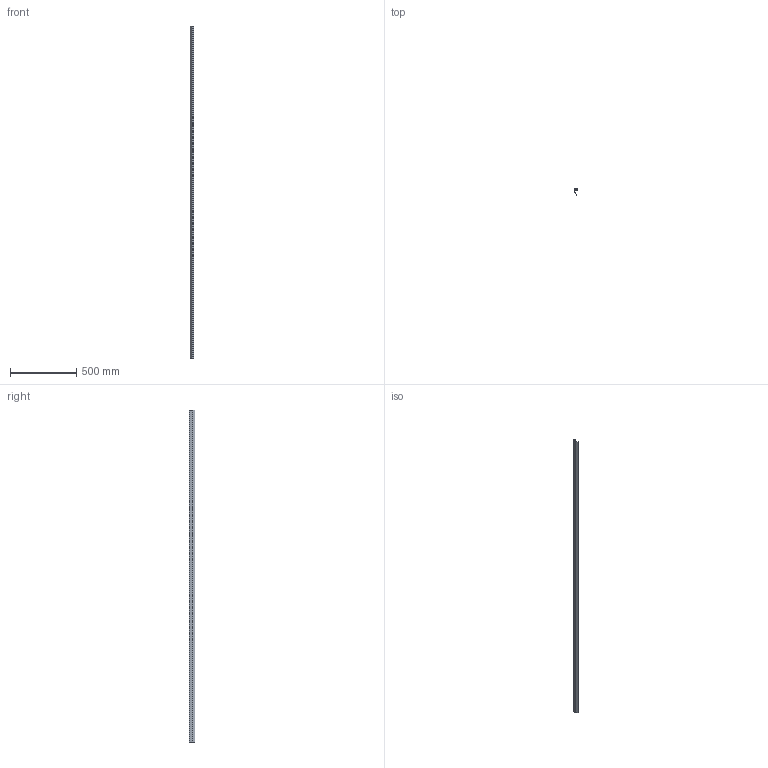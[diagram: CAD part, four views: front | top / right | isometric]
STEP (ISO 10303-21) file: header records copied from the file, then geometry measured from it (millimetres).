
FILE_DESCRIPTION(('STEP AP242'),'1');
FILE_NAME('OPO_51.047.42_volu_schn_3d.stp','2026-03-17T13:40:46',(' '),(' '),'Spatial InterOp 3D',' ',' ');
FILE_SCHEMA(('AP242_MANAGED_MODEL_BASED_3D_ENGINEERING_MIM_LF {1 0 10303 442 1 1 4}'));
Length unit declared in the file: millimetre
Products named in the file (1): 1
Bounding box: 24 x 42 x 2500 mm (x, y, z)
Volume: 385522.1 mm3; surface area: 445641.5 mm2
Topology: 1 solids, 1 shells, 82 faces, 405 edges, 508 vertices
Faces by surface type: plane 62, cylinder 20
Entity records: 5441 total; most frequent: CARTESIAN_POINT 639, DIRECTION 633, ORIENTED_EDGE 452, LINE 345, VECTOR 345, STYLED_ITEM 261, PRESENTATION_STYLE_ASSIGNMENT 261, COLOUR_RGB 261
